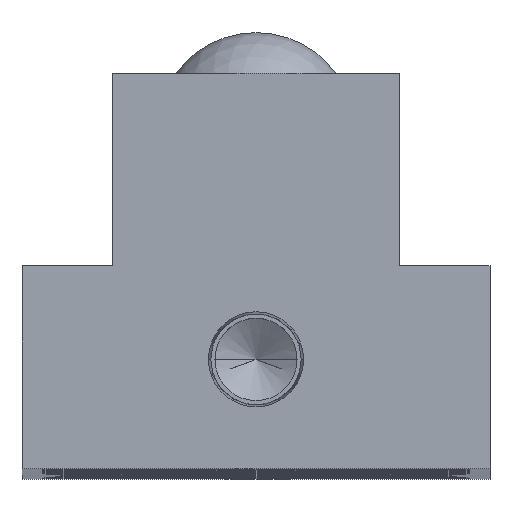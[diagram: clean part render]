
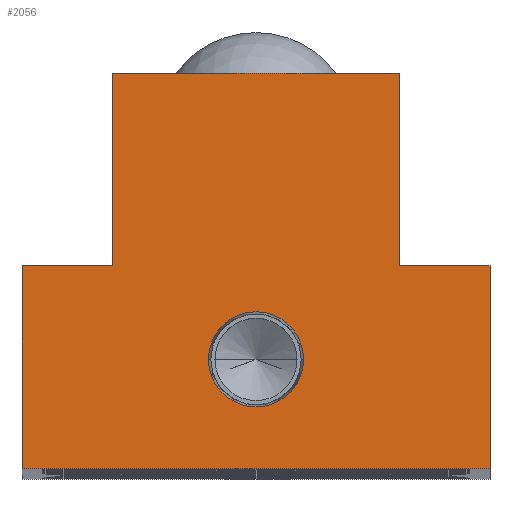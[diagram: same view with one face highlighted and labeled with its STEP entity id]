
A CAD part, top view. The second image highlights one B-rep face of the part: STEP entity #2056.
In plain terms, the highlighted planar face has unit normal (0, 0, 1).
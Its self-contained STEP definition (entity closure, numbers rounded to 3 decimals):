
#59 = DIRECTION ( 'NONE',  ( -1., 0., 0. ) ) ;
#295 = VERTEX_POINT ( 'NONE', #3404 ) ;
#444 = VERTEX_POINT ( 'NONE', #9732 ) ;
#492 = EDGE_CURVE ( 'NONE', #10786, #2744, #5278, .T. ) ;
#495 = VERTEX_POINT ( 'NONE', #667 ) ;
#667 = CARTESIAN_POINT ( 'NONE',  ( -13.75, 38., 0. ) ) ;
#752 = ORIENTED_EDGE ( 'NONE', *, *, #492, .T. ) ;
#843 = VECTOR ( 'NONE', #8516, 1000. ) ;
#1009 = VECTOR ( 'NONE', #8085, 1000. ) ;
#1191 = CARTESIAN_POINT ( 'NONE',  ( -22.5, 19.5, 0. ) ) ;
#1247 = VERTEX_POINT ( 'NONE', #1911 ) ;
#1432 = CARTESIAN_POINT ( 'NONE',  ( -13.75, 38., 0. ) ) ;
#1911 = CARTESIAN_POINT ( 'NONE',  ( -4.574, 10.5, 0. ) ) ;
#2056 = ADVANCED_FACE ( 'NONE', ( #2956, #6825 ), #10011, .F. ) ;
#2744 = VERTEX_POINT ( 'NONE', #1191 ) ;
#2757 = CARTESIAN_POINT ( 'NONE',  ( 22.5, 19.5, 0. ) ) ;
#2804 = VECTOR ( 'NONE', #4036, 1000. ) ;
#2956 = FACE_BOUND ( 'NONE', #9259, .T. ) ;
#3048 = CARTESIAN_POINT ( 'NONE',  ( -22.5, 0., 0. ) ) ;
#3273 = CARTESIAN_POINT ( 'NONE',  ( 0., 10.5, 0. ) ) ;
#3317 = VECTOR ( 'NONE', #3610, 1000. ) ;
#3404 = CARTESIAN_POINT ( 'NONE',  ( 13.75, 38., 0. ) ) ;
#3457 = ORIENTED_EDGE ( 'NONE', *, *, #5111, .T. ) ;
#3610 = DIRECTION ( 'NONE',  ( 0., 1., 0. ) ) ;
#3726 = VERTEX_POINT ( 'NONE', #10282 ) ;
#3862 = DIRECTION ( 'NONE',  ( 0., 1., 0. ) ) ;
#4023 = LINE ( 'NONE', #8958, #8148 ) ;
#4036 = DIRECTION ( 'NONE',  ( -1., 0., 0. ) ) ;
#4121 = DIRECTION ( 'NONE',  ( 1., 0., 0. ) ) ;
#4165 = VECTOR ( 'NONE', #7905, 1000. ) ;
#4177 = ORIENTED_EDGE ( 'NONE', *, *, #9542, .T. ) ;
#4243 = ORIENTED_EDGE ( 'NONE', *, *, #5820, .F. ) ;
#4295 = ORIENTED_EDGE ( 'NONE', *, *, #10126, .T. ) ;
#4424 = LINE ( 'NONE', #8816, #10731 ) ;
#4748 = CARTESIAN_POINT ( 'NONE',  ( 0., 10.5, 0. ) ) ;
#4979 = EDGE_CURVE ( 'NONE', #295, #495, #9600, .T. ) ;
#5084 = DIRECTION ( 'NONE',  ( 0., 0., -1. ) ) ;
#5111 = EDGE_CURVE ( 'NONE', #2744, #6250, #10244, .T. ) ;
#5266 = ORIENTED_EDGE ( 'NONE', *, *, #10388, .F. ) ;
#5278 = LINE ( 'NONE', #9795, #2804 ) ;
#5457 = VERTEX_POINT ( 'NONE', #7397 ) ;
#5592 = DIRECTION ( 'NONE',  ( 1., 0., 0. ) ) ;
#5626 = DIRECTION ( 'NONE',  ( 0., -1., 0. ) ) ;
#5820 = EDGE_CURVE ( 'NONE', #1247, #3726, #8418, .T. ) ;
#6120 = AXIS2_PLACEMENT_3D ( 'NONE', #8360, #5084, #59 ) ;
#6207 = VECTOR ( 'NONE', #10392, 1000. ) ;
#6229 = CARTESIAN_POINT ( 'NONE',  ( 22.5, 19.5, 0. ) ) ;
#6250 = VERTEX_POINT ( 'NONE', #3048 ) ;
#6313 = EDGE_CURVE ( 'NONE', #495, #10786, #4023, .T. ) ;
#6825 = FACE_OUTER_BOUND ( 'NONE', #7005, .T. ) ;
#6942 = ORIENTED_EDGE ( 'NONE', *, *, #10298, .T. ) ;
#7005 = EDGE_LOOP ( 'NONE', ( #4177, #6942, #8383, #8072, #9060, #752, #3457, #4295 ) ) ;
#7351 = CIRCLE ( 'NONE', #8108, 4.574 ) ;
#7397 = CARTESIAN_POINT ( 'NONE',  ( 22.5, 0., 0. ) ) ;
#7497 = EDGE_CURVE ( 'NONE', #444, #295, #7745, .T. ) ;
#7745 = LINE ( 'NONE', #9372, #3317 ) ;
#7905 = DIRECTION ( 'NONE',  ( 0., -1., 0. ) ) ;
#8072 = ORIENTED_EDGE ( 'NONE', *, *, #4979, .T. ) ;
#8085 = DIRECTION ( 'NONE',  ( -1., 0., 0. ) ) ;
#8108 = AXIS2_PLACEMENT_3D ( 'NONE', #4748, #10522, #5592 ) ;
#8148 = VECTOR ( 'NONE', #5626, 1000. ) ;
#8276 = LINE ( 'NONE', #9353, #843 ) ;
#8360 = CARTESIAN_POINT ( 'NONE',  ( 0., 0., 0. ) ) ;
#8383 = ORIENTED_EDGE ( 'NONE', *, *, #7497, .T. ) ;
#8403 = LINE ( 'NONE', #6229, #6207 ) ;
#8418 = CIRCLE ( 'NONE', #9626, 4.574 ) ;
#8516 = DIRECTION ( 'NONE',  ( 1., 0., 0. ) ) ;
#8816 = CARTESIAN_POINT ( 'NONE',  ( 22.5, 19.5, 0. ) ) ;
#8958 = CARTESIAN_POINT ( 'NONE',  ( -13.75, 38., 0. ) ) ;
#9060 = ORIENTED_EDGE ( 'NONE', *, *, #6313, .T. ) ;
#9084 = DIRECTION ( 'NONE',  ( 0., 0., 1. ) ) ;
#9259 = EDGE_LOOP ( 'NONE', ( #5266, #4243 ) ) ;
#9353 = CARTESIAN_POINT ( 'NONE',  ( 22.5, 0., 0. ) ) ;
#9372 = CARTESIAN_POINT ( 'NONE',  ( 13.75, 38., 0. ) ) ;
#9542 = EDGE_CURVE ( 'NONE', #5457, #10143, #4424, .T. ) ;
#9600 = LINE ( 'NONE', #1432, #1009 ) ;
#9626 = AXIS2_PLACEMENT_3D ( 'NONE', #3273, #9084, #4121 ) ;
#9713 = CARTESIAN_POINT ( 'NONE',  ( -13.75, 19.5, 0. ) ) ;
#9732 = CARTESIAN_POINT ( 'NONE',  ( 13.75, 19.5, 0. ) ) ;
#9795 = CARTESIAN_POINT ( 'NONE',  ( -13.75, 19.5, 0. ) ) ;
#10011 = PLANE ( 'NONE',  #6120 ) ;
#10126 = EDGE_CURVE ( 'NONE', #6250, #5457, #8276, .T. ) ;
#10143 = VERTEX_POINT ( 'NONE', #2757 ) ;
#10244 = LINE ( 'NONE', #10289, #4165 ) ;
#10282 = CARTESIAN_POINT ( 'NONE',  ( 4.574, 10.5, 0. ) ) ;
#10289 = CARTESIAN_POINT ( 'NONE',  ( -22.5, 19.5, 0. ) ) ;
#10298 = EDGE_CURVE ( 'NONE', #10143, #444, #8403, .T. ) ;
#10388 = EDGE_CURVE ( 'NONE', #3726, #1247, #7351, .T. ) ;
#10392 = DIRECTION ( 'NONE',  ( -1., 0., 0. ) ) ;
#10522 = DIRECTION ( 'NONE',  ( 0., 0., 1. ) ) ;
#10731 = VECTOR ( 'NONE', #3862, 1000. ) ;
#10786 = VERTEX_POINT ( 'NONE', #9713 ) ;
